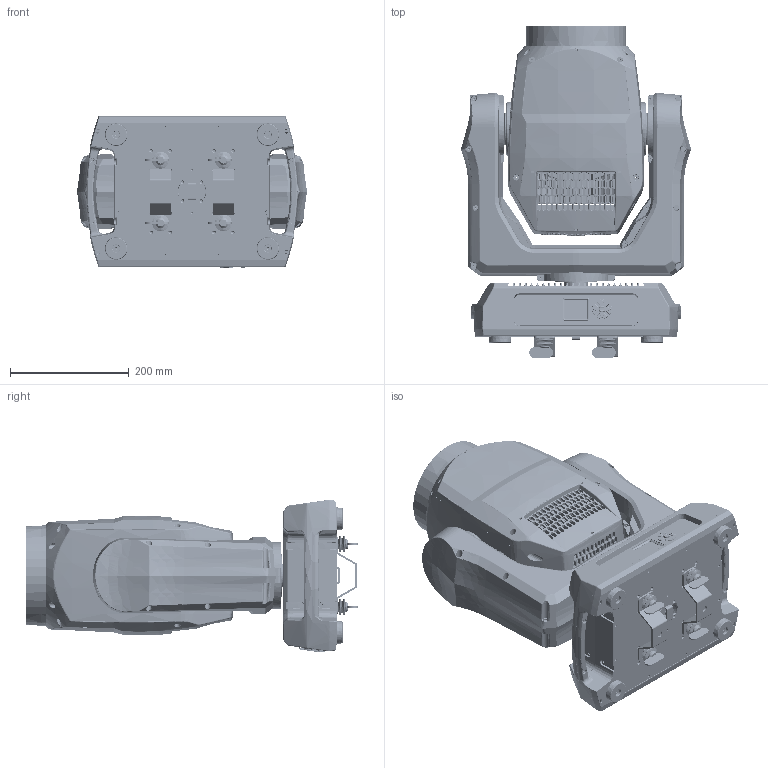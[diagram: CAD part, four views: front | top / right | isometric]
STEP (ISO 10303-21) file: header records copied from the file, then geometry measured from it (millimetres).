
FILE_DESCRIPTION((''),'2;1');
FILE_NAME('218A018BIP_ASM','2025-12-16T17:16:31',('Administrator'),(''),'CREO PARAMETRIC BY PTC INC, 2020354','CREO PARAMETRIC BY PTC INC, 2020354','');
FILE_SCHEMA(('CONFIG_CONTROL_DESIGN'));
Products named in the file (91): LH-A018BIP-N01; LH-A018BIP-A03; E021GQ01129; AAAAQ53166; AAAAQ99166; AAAAQ52166; A043F03277; 02030147-C5F2C-W040001_123_5; K50001_1_5; 02030152-K5F2C-W040001_1_5; 03020026-20001_1_5; 50001_ASM_3_5_ASM; C3F2C-W030001_14_5; 000_2_5; 00_1_5; K0001_1_5; 0006_ASM_3_5_ASM; 0009_1_5; K00_1_5; 02-03-0162-J5F2C-W0001_54_5; 03-03-0183-C5F2C-W0001_11_5; 5J0002_1_5; 5J0001_ASM_2_5_ASM; J00_4_5; C5F2C-W-B_4_ASM; 3-5-0002; AAAQ108166_ASM; 218A018BIP_01_01_ASM; LH-A018BIP-A01; LH-A018BIP-C12; LH-A018BIP-A02; LH-A018BIP-C10; LH-A018BIP-C01; LH-A018BIP-C03; LH-A018BIP-C02; LH-A018BIP-C08; LH-A018BIP-C09; LH-A018BIP-B01; A018BIPF01069; LH-C105A-01-C01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
Assembly tree (136 placements, depth 7):
  218A018BIP_ASM
    218A018BIP_01_ASM
      LH-A018BIP-N01
      218A018BIP_01_01_ASM
        LH-A018BIP-A03
        E021GQ01129
        AAAAQ53166
        AAAAQ99166
        AAAAQ52166
        A043F03277
        AAAQ108166_ASM
          C5F2C-W-B_4_ASM
            50001_ASM_3_5_ASM
              02030147-C5F2C-W040001_123_5
              K50001_1_5  x5
              02030152-K5F2C-W040001_1_5
              03020026-20001_1_5
            0006_ASM_3_5_ASM
              C3F2C-W030001_14_5
              000_2_5
              00_1_5
              K0001_1_5
            0009_1_5  x4
            K00_1_5
            5J0001_ASM_2_5_ASM
              02-03-0162-J5F2C-W0001_54_5
              03-03-0183-C5F2C-W0001_11_5
              5J0002_1_5  x5
            J00_4_5
          3-5-0002
      LH-A018BIP-A01
      LH-A018BIP-C12  x2
      LH-A018BIP-A02
      LH-A018BIP-C10
      LH-A018BIP-C01  x2
      LH-A018BIP-C03  x2
      LH-A018BIP-C02  x2
      LH-A018BIP-C08
      LH-A018BIP-C09
      LH-A018BIP-B01
      A018BIPF01069
      LH-C105A-01-C01  x5
      C105AC02297  x5
      A018J03005
      LH-A018BIP-A04
      LH-A018BIP-A05
      AAAS560039  x4
      A018D02009
      A018BIPCV01
      A018BIPCV02
      LH-A018BIP-C11
      A018BIPC01297
      LH-A018BIP-S01  x2
      LH-A018BIP-A47
      AAAAK13095
      A018BIPC21
      LH-A018BIP-A06  x2
      A018BIPCV03
      0001_ASM
        LH-A018BIP-A48  x2
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Bounding box: 388.37 x 560 x 257.34 mm (x, y, z)
Volume: 4921544.7 mm3; surface area: 3537773.6 mm2
Topology: 140 solids, 151 shells, 30075 faces, 78712 edges, 49095 vertices
Faces by surface type: plane 10347, bspline 6404, cylinder 6182, cone 4735, torus 1902, sphere 364, extrusion 141
Entity records: 990430 total; most frequent: CARTESIAN_POINT 461531, ORIENTED_EDGE 120072, DIRECTION 94933, EDGE_CURVE 60036, VERTEX_POINT 37861, AXIS2_PLACEMENT_3D 34435, VECTOR 26063, LINE 25923
